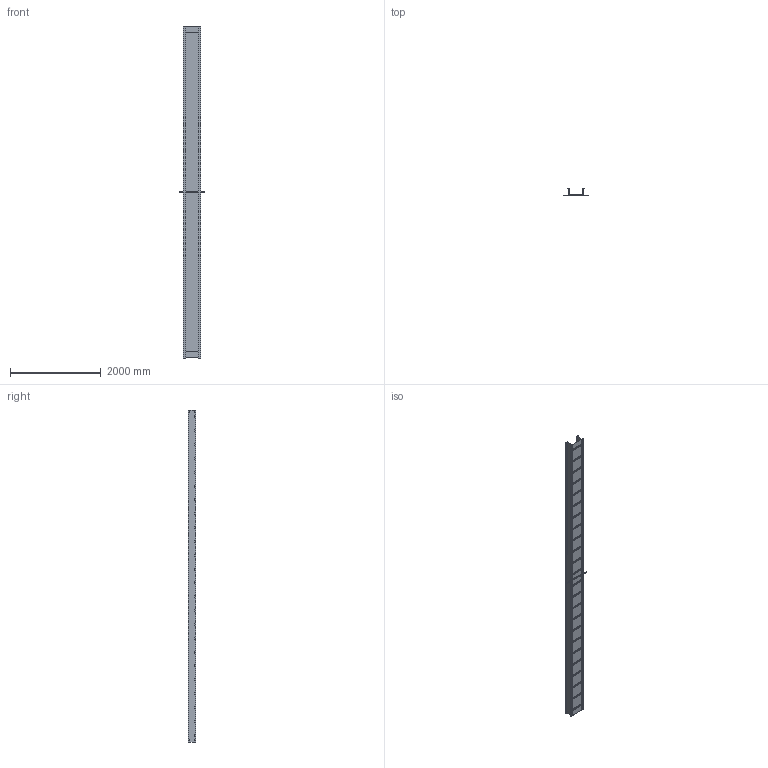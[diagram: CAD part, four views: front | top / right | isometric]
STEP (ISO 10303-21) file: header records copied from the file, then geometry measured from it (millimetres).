
FILE_DESCRIPTION((''),'2;1');
FILE_NAME('AH3612S288_ASM','2010-02-05T',('erouzier'),(''),'PRO/ENGINEER BY PARAMETRIC TECHNOLOGY CORPORATION, 2008510','PRO/ENGINEER BY PARAMETRIC TECHNOLOGY CORPORATION, 2008510','');
FILE_SCHEMA(('CONFIG_CONTROL_DESIGN'));
Length unit declared in the file: inch
Products named in the file (29): CDS002134-011_AF3; CDS002134-011_AF4; CDS002159L12_AF0; CDS002159L12_AF1; CDS002159L12_AF2; CDS002159L12_AF3; CDS002159L12_AF4; CDS002159L12_AF5; CDS002159L12_AF6; CDS002159L12_AF7; CDS002159L12_AF8; CDS002159L12_AF9; CDS002159L12_AF10; CDS002159L12_AF11; CDS002159L12_AF12; CDS002159L12_AF13; CDS002159L12_AF14; CDS002159L12_AF15; CDS002159L12_AF16; CDS002159L12_AF17; CDS002159L12_AF18; CDS002159L12_AF19; CDS002159L12_AF20; CDS002159L12_AF21; CDS002159L12_AF22; CDS002159L12_AF23; ED04587-003; ABW24SBJ; AH3612S288_ASM
Assembly tree (29 placements, depth 2):
  AH3612S288_ASM
    CDS002134-011_AF3
    CDS002134-011_AF4
    CDS002159L12_AF0
    CDS002159L12_AF1
    CDS002159L12_AF2
    CDS002159L12_AF3
    CDS002159L12_AF4
    CDS002159L12_AF5
    CDS002159L12_AF6
    CDS002159L12_AF7
    CDS002159L12_AF8
    CDS002159L12_AF9
    CDS002159L12_AF10
    CDS002159L12_AF11
    CDS002159L12_AF12
    CDS002159L12_AF13
    CDS002159L12_AF14
    CDS002159L12_AF15
    CDS002159L12_AF16
    CDS002159L12_AF17
    CDS002159L12_AF18
    CDS002159L12_AF19
    CDS002159L12_AF20
    CDS002159L12_AF21
    CDS002159L12_AF22
    CDS002159L12_AF23
    ED04587-003  x2
    ABW24SBJ
Bounding box: 571.5 x 158.5 x 7315.2 mm (x, y, z)
Volume: 12669932.3 mm3; surface area: 15992247.7 mm2
Topology: 29 solids, 30 shells, 833 faces, 2326 edges, 1552 vertices
Faces by surface type: plane 563, cylinder 270
Entity records: 27277 total; most frequent: CARTESIAN_POINT 4743, DIRECTION 4624, ORIENTED_EDGE 4624, EDGE_CURVE 2314, VECTOR 1774, LINE 1774, VERTEX_POINT 1544, AXIS2_PLACEMENT_3D 1425
